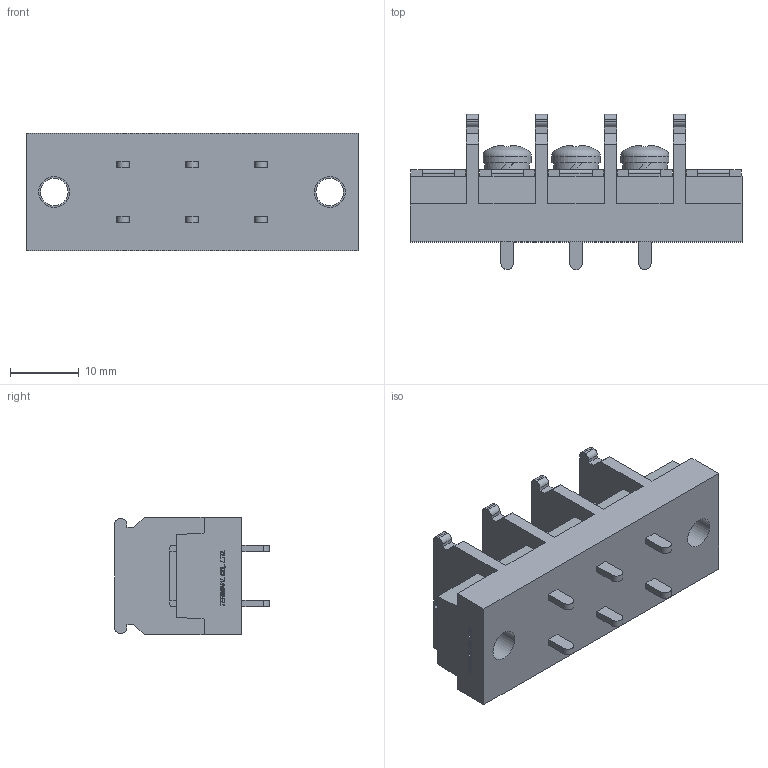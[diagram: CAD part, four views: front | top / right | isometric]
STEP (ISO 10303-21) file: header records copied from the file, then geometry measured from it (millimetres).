
FILE_DESCRIPTION(/* description */ ('Alibre Inc.'),/* implementation_level */ '2;1');
FILE_NAME(/* name */ 'export0',/* time_stamp */ '2015-10-17T15:42:35+09:00',/* author */ (''),/* organization */ (''),/* preprocessor_version */ 'ST-DEVELOPER v14',/* originating_system */ 'Alibre',/* authorisation */ '');
FILE_SCHEMA (('CONFIG_CONTROL_DESIGN'));
Length unit declared in the file: centimetre
Products named in the file (1): ID_1
Bounding box: 48.2 x 22.5 x 17 mm (x, y, z)
Volume: 8397.9 mm3; surface area: 5190.1 mm2
Topology: 1 solids, 17 shells, 660 faces, 1761 edges, 1171 vertices
Faces by surface type: plane 490, bspline 104, cylinder 45, cone 12, torus 6, sphere 3
Full cylindrical faces by diameter (mm): 4 x5, 4.5 x2, 6.5 x3, 7 x3
Entity records: 19878 total; most frequent: CARTESIAN_POINT 4571, ORIENTED_EDGE 3472, DIRECTION 2286, EDGE_CURVE 1736, VECTOR 1326, LINE 1326, VERTEX_POINT 1162, EDGE_LOOP 730
